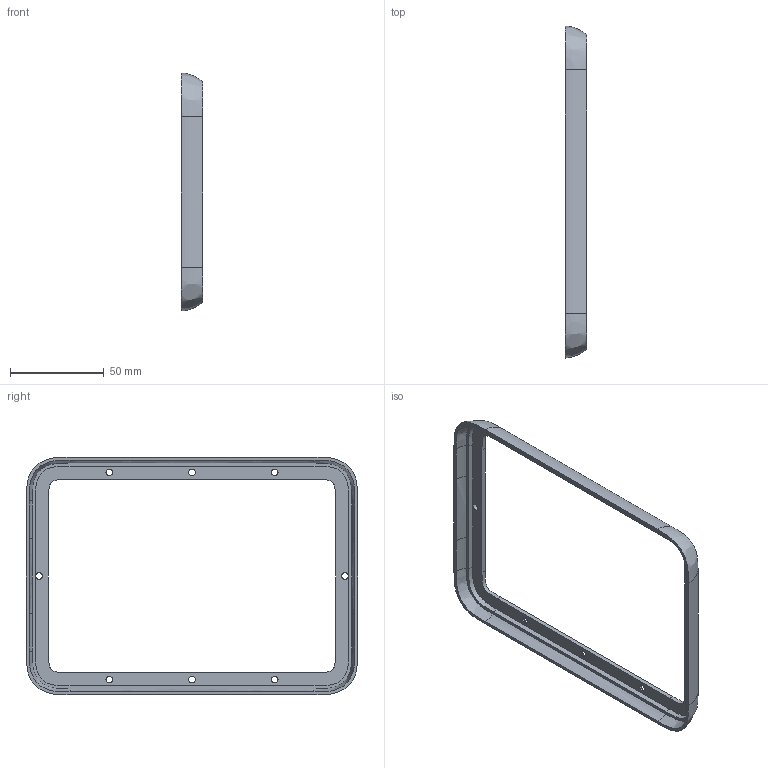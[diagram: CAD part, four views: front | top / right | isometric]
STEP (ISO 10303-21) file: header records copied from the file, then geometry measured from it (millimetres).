
FILE_DESCRIPTION(/* description */ (''),/* implementation_level */ '2;1');
FILE_NAME(/* name */ 'INTERNAL BACK FRAME.step',/* time_stamp */ '2024-02-28T16:55:22Z',/* author */ (''),/* organization */ (''),/* preprocessor_version */ 'ST-DEVELOPER v20',/* originating_system */ 'Autodesk Translation Framework v12.20.1.177',/* authorisation */ '');
FILE_SCHEMA (('AUTOMOTIVE_DESIGN { 1 0 10303 214 3 1 1 }'));
Length unit declared in the file: millimetre
Products named in the file (1): INTERNAL BACK FRAME
Bounding box: 11.6 x 176.8 x 126.8 mm (x, y, z)
Volume: 20098.6 mm3; surface area: 23099.7 mm2
Topology: 1 solids, 1 shells, 66 faces, 192 edges, 130 vertices
Faces by surface type: bspline 40, plane 12, cylinder 8, cone 6
Full cylindrical faces by diameter (mm): 3.5 x8
Entity records: 4310 total; most frequent: CARTESIAN_POINT 2797, ORIENTED_EDGE 384, EDGE_CURVE 192, DIRECTION 164, VERTEX_POINT 130, B_SPLINE_CURVE_WITH_KNOTS 96, EDGE_LOOP 86, FACE_OUTER_BOUND 66
